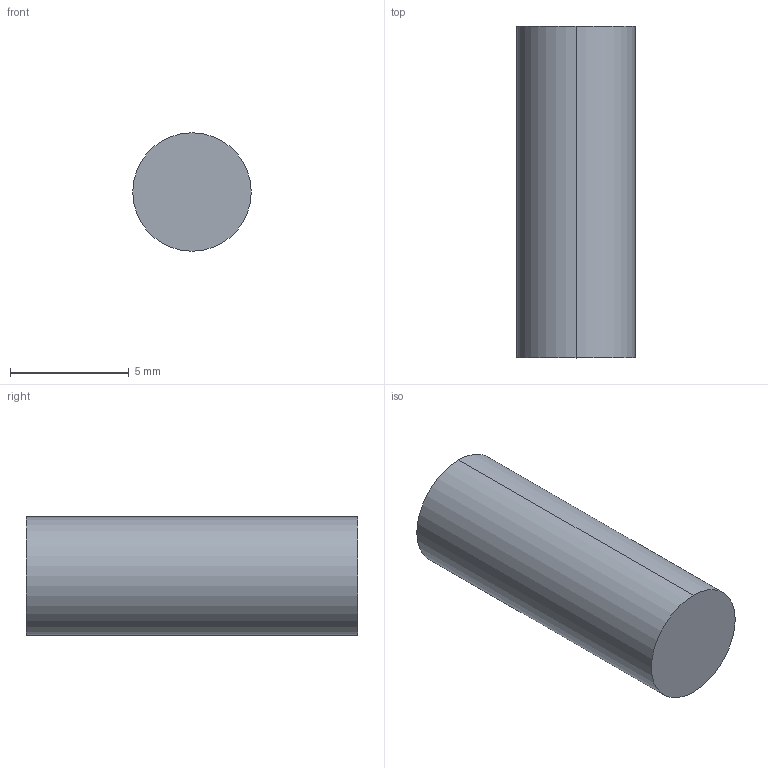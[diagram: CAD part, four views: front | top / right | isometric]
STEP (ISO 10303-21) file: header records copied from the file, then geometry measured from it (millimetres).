
FILE_DESCRIPTION (( 'STEP AP203' ), '1' );
FILE_NAME ('粣.STEP', '2024-10-23T13:53:25', ( '' ), ( '' ), 'SwSTEP 2.0', 'SolidWorks 2023', '' );
FILE_SCHEMA (( 'CONFIG_CONTROL_DESIGN' ));
Length unit declared in the file: millimetre
Products named in the file (1): 轴
Bounding box: 5 x 14 x 5 mm (x, y, z)
Volume: 274.9 mm3; surface area: 259.2 mm2
Topology: 1 solids, 1 shells, 4 faces, 6 edges, 4 vertices
Faces by surface type: cylinder 2, plane 2
Entity records: 171 total; most frequent: DIRECTION 20, CARTESIAN_POINT 15, ORIENTED_EDGE 12, AXIS2_PLACEMENT_3D 9, PERSON_AND_ORGANIZATION 8, EDGE_CURVE 6, DATE_AND_TIME 5, PERSON_AND_ORGANIZATION_ROLE 5
